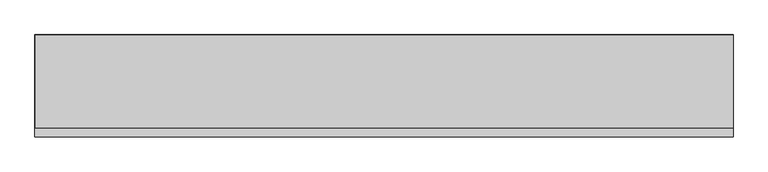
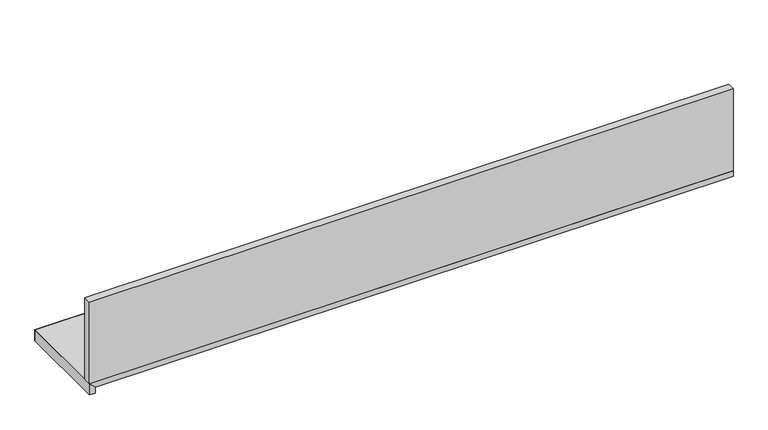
"""IFC4 building model written with IfcOpenShell, lengths in millimetres: proxy geometry, BASYS^U OFFICE 6_82 WALL HUNG TOP SHELF-PARTS SOLID."""

import ifcopenshell
import ifcopenshell.guid

model = None  # the IFC model being written
_history = None  # IfcOwnerHistory: only IFC2X3 demands one
_inside = {}  # id of a spatial element -> (the spatial element, [elements in it])
_under = {}  # id of a project, library or spatial element -> (it, [spatial elements below it])
_declared = {}  # id of a project -> (the project, [libraries it declares])
_typed = {}  # id of a type object -> (the type object, [elements of that type])
_made_of = {}  # id of a material, layer set ... -> (it, [elements and type objects made of it])


def new_model(schema):
    """Start an empty IFC model of exactly this schema.

    Asked for "IFC4X3", IfcOpenShell would pick the latest addendum, in which some entities
    have other attributes; the version numbers below select the first issue.
    IFC2X3 requires an IfcOwnerHistory on every rooted entity: one is made here for all.
    """
    global model, _history
    if schema == "IFC4X3":
        model = ifcopenshell.file(schema_version=(4, 3, 0, 0))
    else:
        model = ifcopenshell.file(schema=schema)
    _inside.clear()
    _under.clear()
    _declared.clear()
    _typed.clear()
    _made_of.clear()
    _history = None
    if model.schema == "IFC2X3":
        org = make("IfcOrganization", Name="unknown")
        user = make(
            "IfcPersonAndOrganization",
            ThePerson=make("IfcPerson", FamilyName="unknown"),
            TheOrganization=org,
        )
        app = make(
            "IfcApplication",
            ApplicationDeveloper=org,
            Version="unknown",
            ApplicationFullName="unknown",
            ApplicationIdentifier="unknown",
        )
        _history = make(
            "IfcOwnerHistory",
            OwningUser=user,
            OwningApplication=app,
            ChangeAction="ADDED",
            CreationDate=0,
        )
    return model


def make(cls, **values):
    """One entity of the class cls with the attributes given. An attribute that is None is left unset."""
    return model.create_entity(
        cls, **{name: value for name, value in values.items() if value is not None}
    )


def rooted(cls, **values):
    """An entity with a GlobalId (a new one), such as an element, a storey or a relation."""
    return make(cls, GlobalId=ifcopenshell.guid.new(), OwnerHistory=_history, **values)


def si_unit(unit_type, name, prefix=None):
    """IfcSIUnit, for example si_unit("LENGTHUNIT", "METRE", prefix="MILLI")."""
    return make("IfcSIUnit", UnitType=unit_type, Prefix=prefix, Name=name)


def assignment(units):
    """IfcUnitAssignment: the units of a project."""
    return None if units is None else make("IfcUnitAssignment", Units=units)


def point(xyz):
    """IfcCartesianPoint."""
    return None if xyz is None else make("IfcCartesianPoint", Coordinates=xyz)


def direction(xyz):
    """IfcDirection."""
    return None if xyz is None else make("IfcDirection", DirectionRatios=xyz)


def frame(location, z_axis=None, x_axis=None):
    """IfcAxis2Placement3D, a coordinate frame: its origin and axes. An axis left out is left unset."""
    return make(
        "IfcAxis2Placement3D",
        Location=point(location),
        Axis=direction(z_axis),
        RefDirection=direction(x_axis),
    )


def origin():
    """The frame at (0, 0, 0) with its axes left unset."""
    return frame((0.0, 0.0, 0.0))


def place(relative_to, where):
    """IfcLocalPlacement: puts the frame where relative to a parent placement (None: the world)."""
    return make(
        "IfcLocalPlacement", PlacementRelTo=relative_to, RelativePlacement=where
    )


def context(
    kind, dimensions, precision=None, world=None, true_north=None, identifier=None
):
    """IfcGeometricRepresentationContext, for example the 3D "Model" context."""
    return make(
        "IfcGeometricRepresentationContext",
        ContextIdentifier=identifier,
        ContextType=kind,
        CoordinateSpaceDimension=dimensions,
        Precision=precision,
        WorldCoordinateSystem=world,
        TrueNorth=true_north,
    )


def project(units=None, contexts=None):
    """IfcProject with its units and contexts."""
    return rooted(
        "IfcProject",
        Name="project",
        RepresentationContexts=contexts,
        UnitsInContext=assignment(units),
    )


def spatial(cls, under=None, at=None, **own):
    """A site, building, storey or space (cls), placed at a placement, below another one or the project."""
    s = rooted(cls, ObjectPlacement=at, **own)
    if under is not None:
        _under.setdefault(under.id(), (under, []))[1].append(s)
    return s


def polyline(points):
    """IfcPolyline through the points."""
    return make("IfcPolyline", Points=[point(p) for p in points])


def outline(outer, holes=None, kind="AREA"):
    """IfcArbitraryClosedProfileDef: a profile drawn as a closed curve; with holes, ...WithVoids."""
    if holes is None:
        return make("IfcArbitraryClosedProfileDef", ProfileType=kind, OuterCurve=outer)
    return make(
        "IfcArbitraryProfileDefWithVoids",
        ProfileType=kind,
        OuterCurve=outer,
        InnerCurves=holes,
    )


def extrude(swept, where, along, depth):
    """IfcExtrudedAreaSolid: the profile swept, set in the frame where, extruded along a direction by depth."""
    return make(
        "IfcExtrudedAreaSolid",
        SweptArea=swept,
        Position=where,
        ExtrudedDirection=direction(along),
        Depth=depth,
    )


def faces_of(points, faces, orient=None, outer=None):
    """IfcFace entities. A face is a list of loops; a loop is a list of indices into points, from 0.

    orient and outer hold one flag for each loop. By default every Orientation is true, the
    first loop of a face is its IfcFaceOuterBound and the others are IfcFaceBound.
    """
    made = []
    for i, loops in enumerate(faces):
        bounds = []
        for j, loop in enumerate(loops):
            is_outer = j == 0 if outer is None else outer[i][j]
            bounds.append(
                make(
                    "IfcFaceOuterBound" if is_outer else "IfcFaceBound",
                    Bound=make("IfcPolyLoop", Polygon=[points[k] for k in loop]),
                    Orientation=True if orient is None else orient[i][j],
                )
            )
        made.append(make("IfcFace", Bounds=bounds))
    return made


def faceted_brep(points, faces, orient=None, outer=None, voids=None):
    """IfcFacetedBrep: a solid bounded by flat faces; with voids (closed shells), ...WithVoids."""
    shared = [point(p) for p in points]
    hull = make("IfcClosedShell", CfsFaces=faces_of(shared, faces, orient, outer))
    if voids is None:
        return make("IfcFacetedBrep", Outer=hull)
    return make(
        "IfcFacetedBrepWithVoids",
        Outer=hull,
        Voids=[
            make(cls, CfsFaces=faces_of(shared, fs, o, b)) for cls, fs, o, b in voids
        ],
    )


def shape(context_of_items, identifier, shape_type, items):
    """IfcShapeRepresentation: the items that make up one representation, for example the "Body"."""
    return make(
        "IfcShapeRepresentation",
        ContextOfItems=context_of_items,
        RepresentationIdentifier=identifier,
        RepresentationType=shape_type,
        Items=items,
    )


def source(mapping_origin, context_of_items, identifier, shape_type, items):
    """IfcRepresentationMap: a shape defined once, which mapped items show again and again."""
    return make(
        "IfcRepresentationMap",
        MappingOrigin=mapping_origin,
        MappedRepresentation=shape(context_of_items, identifier, shape_type, items),
    )


def transform(
    local_origin,
    x_axis=None,
    y_axis=None,
    z_axis=None,
    scale=None,
    scale2=None,
    scale3=None,
    uniform=True,
):
    """IfcCartesianTransformationOperator3D, or its non-uniform kind. x_axis, y_axis, z_axis: its Axis1, 2, 3."""
    if uniform:
        return make(
            "IfcCartesianTransformationOperator3D",
            Axis1=direction(x_axis),
            Axis2=direction(y_axis),
            LocalOrigin=point(local_origin),
            Scale=scale,
            Axis3=direction(z_axis),
        )
    return make(
        "IfcCartesianTransformationOperator3DnonUniform",
        Axis1=direction(x_axis),
        Axis2=direction(y_axis),
        LocalOrigin=point(local_origin),
        Scale=scale,
        Axis3=direction(z_axis),
        Scale2=scale2,
        Scale3=scale3,
    )


def mapped(mapping_source, mapping_target):
    """IfcMappedItem: shows the shape of a source again, moved by a transform."""
    return make(
        "IfcMappedItem", MappingSource=mapping_source, MappingTarget=mapping_target
    )


def made_of(thing, what):
    """Note that an element or type object is made of a material, layer set ...; save() writes the relation."""
    if what is not None:
        _made_of.setdefault(what.id(), (what, []))[1].append(thing)
    return thing


def element(
    cls,
    number,
    at=None,
    inside=None,
    cuts=None,
    type_object=None,
    material=None,
    context=None,
    identifier="Body",
    shape_type=None,
    held_by="IfcProductDefinitionShape",
    body=None,
    shapes=None,
    **own,
):
    """One element of the class cls, such as IfcWall. Its Tag is "e" and its number.

    at: its placement. inside: the storey or other place that contains it. cuts: it is an
    opening in that element (IfcRelVoidsElement). A single representation is given by context,
    identifier, shape_type and body (its items); several are given by shapes. held_by: the class
    of the entity that holds the representations. save() writes the other relations.
    """
    e = rooted(cls, Tag="e%d" % number, ObjectPlacement=at, **own)
    if body is not None:
        shapes = [shape(context, identifier, shape_type, body)]
    if shapes is not None:
        e.Representation = make(held_by, Representations=shapes)
    if inside is not None:
        _inside.setdefault(inside.id(), (inside, []))[1].append(e)
    if cuts is not None:
        rooted(
            "IfcRelVoidsElement", RelatingBuildingElement=cuts, RelatedOpeningElement=e
        )
    if type_object is not None:
        _typed.setdefault(type_object.id(), (type_object, []))[1].append(e)
    return made_of(e, material)


def aggregate(whole, parts):
    """IfcRelAggregates: a whole, such as a stair, and the parts it consists of."""
    return rooted("IfcRelAggregates", RelatingObject=whole, RelatedObjects=parts)


def save(model, path):
    """Write the relations noted so far, then the file.

    IfcRelAggregates (storeys below a building ...), IfcRelContainedInSpatialStructure (elements
    in a storey), IfcRelDefinesByType, IfcRelAssociatesMaterial and IfcRelDeclares: one each for
    every whole, place, type object, material and project.
    """
    for whole, parts in _under.values():
        aggregate(whole, parts)
    for where, things in _inside.values():
        rooted(
            "IfcRelContainedInSpatialStructure",
            RelatedElements=things,
            RelatingStructure=where,
        )
    for kind, things in _typed.values():
        rooted("IfcRelDefinesByType", RelatedObjects=things, RelatingType=kind)
    for what, things in _made_of.values():
        rooted("IfcRelAssociatesMaterial", RelatedObjects=things, RelatingMaterial=what)
    for by, libraries in _declared.values():
        rooted("IfcRelDeclares", RelatingContext=by, RelatedDefinitions=libraries)
    model.write(path)


def generic_models_48a14a64(model_context):
    return source(origin(), model_context, "Body", "SolidModel", [
        faceted_brep([(0.0, 304.8, -19.05), (19.05, 285.75, -19.05), (19.05, 285.75, 0.0), (0.0, 304.8, 19.05), (2082.8, 285.75, -19.05), (2082.8, 285.75, 0.0), (2082.8, 304.8, -19.05), (2082.8, 304.8, 19.05)], [[[0, 1, 2, 3]], [[2, 1, 4, 5]], [[1, 0, 6, 4]], [[0, 3, 7, 6]], [[3, 2, 5, 7]], [[7, 5, 4, 6]]]),
        extrude(outline(polyline([(0.0, 0.0), (0.0, 25.4), (2082.8, 25.4), (2082.8, 0.0), (0.0, 0.0)])), frame((0.0, 0.0, 19.05), z_axis=(0.0, 0.0, 1.0), x_axis=(1.0, 0.0, 0.0)), (0.0, 0.0, 1.0), 279.4),
        faceted_brep([(19.05, 285.75, -19.05), (19.05, 285.75, 0.0), (19.05, 0.0, 0.0), (19.05, 0.0, -19.05), (0.0, 304.8, 19.05), (0.0, 0.0, 19.05), (0.0, 304.8, -19.05), (0.0, 0.0, -19.05)], [[[0, 1, 2, 3]], [[1, 4, 5, 2]], [[4, 6, 7, 5]], [[6, 0, 3, 7]], [[3, 2, 5, 7]], [[4, 1, 0, 6]]]),
        faceted_brep([(19.05, 0.0, 0.0), (0.0, 0.0, 19.05), (0.0, 304.8, 19.05), (19.05, 285.75, 0.0), (2082.8, 285.75, 0.0), (2082.8, 0.0, 0.0), (2082.8, 304.8, 19.05), (2082.8, 0.0, 19.05)], [[[0, 1, 2, 3]], [[0, 3, 4, 5]], [[3, 2, 6, 4]], [[1, 0, 5, 7]], [[4, 6, 7, 5]], [[7, 6, 2, 1]]]),
    ])


if __name__ == "__main__":
    model = new_model("IFC4")
    model_context = context("Model", 3, world=origin())
    ifc_project = project(units=[si_unit("LENGTHUNIT", "METRE", prefix="MILLI")], contexts=[model_context])
    site = spatial("IfcSite", under=ifc_project)
    building = spatial("IfcBuilding", under=site)
    placement = place(None, origin())
    generic_models_shape = generic_models_48a14a64(model_context)
    element("IfcBuildingElementProxy", 1, Name="BASYS^U OFFICE 6_82 WALL HUNG TOP SHELF-PARTS SOLID", ObjectType="BASYS^U OFFICE 6_82 WALL HUNG TOP SHELF-PARTS SOLID", at=placement, inside=building, context=model_context, shape_type="MappedRepresentation", body=[
        mapped(generic_models_shape, transform((0.0, 0.0, 0.0), x_axis=(1.0, 0.0, 0.0), y_axis=(0.0, 1.0, 0.0), z_axis=(0.0, 0.0, 1.0))),
    ])
    save(model, "model.ifc")
